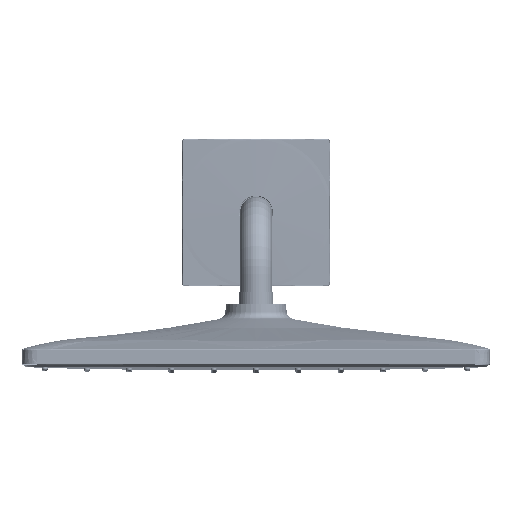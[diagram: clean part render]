
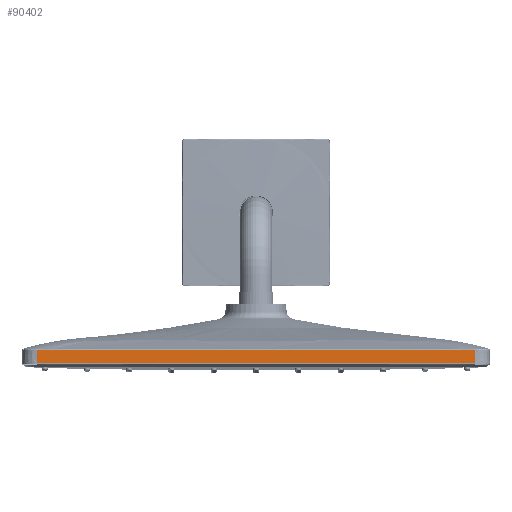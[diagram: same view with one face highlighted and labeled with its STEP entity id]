
A CAD part, front view. The second image highlights one B-rep face of the part: STEP entity #90402.
In plain terms, the highlighted planar face has unit normal (0, -1, 0.009).
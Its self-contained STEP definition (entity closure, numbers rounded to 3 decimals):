
#7844=LINE('',#239495,#10720);
#7848=LINE('',#243536,#10724);
#7849=LINE('',#243540,#10725);
#7851=LINE('',#243546,#10727);
#10720=VECTOR('',#146019,1000.);
#10724=VECTOR('',#146043,1000.);
#10725=VECTOR('',#146048,1000.);
#10727=VECTOR('',#146054,1000.);
#16280=B_SPLINE_CURVE_WITH_KNOTS('',3,(#239470,#239471,#239472,#239473),
 .UNSPECIFIED.,.F.,.F.,(4,4),(0.,1.),.UNSPECIFIED.);
#16288=B_SPLINE_CURVE_WITH_KNOTS('',3,(#239554,#239555,#239556,#239557),
 .UNSPECIFIED.,.F.,.F.,(4,4),(0.,1.),.UNSPECIFIED.);
#18010=PLANE('',#126674);
#41814=ORIENTED_EDGE('',*,*,#56563,.T.);
#41815=ORIENTED_EDGE('',*,*,#56555,.T.);
#41816=ORIENTED_EDGE('',*,*,#56618,.T.);
#41817=ORIENTED_EDGE('',*,*,#56621,.T.);
#41818=ORIENTED_EDGE('',*,*,#56616,.F.);
#41819=ORIENTED_EDGE('',*,*,#56569,.T.);
#56555=EDGE_CURVE('',#67200,#67196,#16280,.T.);
#56563=EDGE_CURVE('',#67205,#67200,#7844,.F.);
#56569=EDGE_CURVE('',#67210,#67205,#16288,.T.);
#56616=EDGE_CURVE('',#67210,#67239,#7848,.T.);
#56618=EDGE_CURVE('',#67196,#67240,#7849,.T.);
#56621=EDGE_CURVE('',#67240,#67239,#7851,.F.);
#67196=VERTEX_POINT('',#239362);
#67200=VERTEX_POINT('',#239464);
#67205=VERTEX_POINT('',#239490);
#67210=VERTEX_POINT('',#239548);
#67239=VERTEX_POINT('',#243537);
#67240=VERTEX_POINT('',#243541);
#78502=EDGE_LOOP('',(#41814,#41815,#41816,#41817,#41818,#41819));
#84939=FACE_BOUND('',#78502,.T.);
#90402=ADVANCED_FACE('',(#84939),#18010,.T.);
#126674=AXIS2_PLACEMENT_3D('',#243545,#146052,#146053);
#146019=DIRECTION('',(1.,0.,0.));
#146043=DIRECTION('',(0.,-0.009,-1.));
#146048=DIRECTION('',(0.,-0.009,-1.));
#146052=DIRECTION('',(0.,-1.,0.009));
#146053=DIRECTION('',(0.,-0.009,-1.));
#146054=DIRECTION('',(-1.,0.,0.));
#239362=CARTESIAN_POINT('',(-145.001,-620.135,-90.825));
#239464=CARTESIAN_POINT('',(-135.384,-620.134,-90.76));
#239470=CARTESIAN_POINT('',(-135.384,-620.134,-90.76));
#239471=CARTESIAN_POINT('',(-140.117,-620.134,-90.76));
#239472=CARTESIAN_POINT('',(-143.322,-620.135,-90.782));
#239473=CARTESIAN_POINT('',(-145.001,-620.135,-90.825));
#239490=CARTESIAN_POINT('',(135.384,-620.134,-90.76));
#239495=CARTESIAN_POINT('',(-135.776,-620.134,-90.76));
#239548=CARTESIAN_POINT('',(145.001,-620.135,-90.825));
#239554=CARTESIAN_POINT('',(145.001,-620.135,-90.825));
#239555=CARTESIAN_POINT('',(143.322,-620.135,-90.782));
#239556=CARTESIAN_POINT('',(140.117,-620.134,-90.76));
#239557=CARTESIAN_POINT('',(135.384,-620.134,-90.76));
#243536=CARTESIAN_POINT('',(144.998,-620.126,-89.823));
#243537=CARTESIAN_POINT('',(144.998,-620.21,-99.415));
#243540=CARTESIAN_POINT('',(-144.998,-620.126,-89.823));
#243541=CARTESIAN_POINT('',(-144.998,-620.21,-99.415));
#243545=CARTESIAN_POINT('',(72.5,-620.21,-99.415));
#243546=CARTESIAN_POINT('',(-72.5,-620.21,-99.415));
